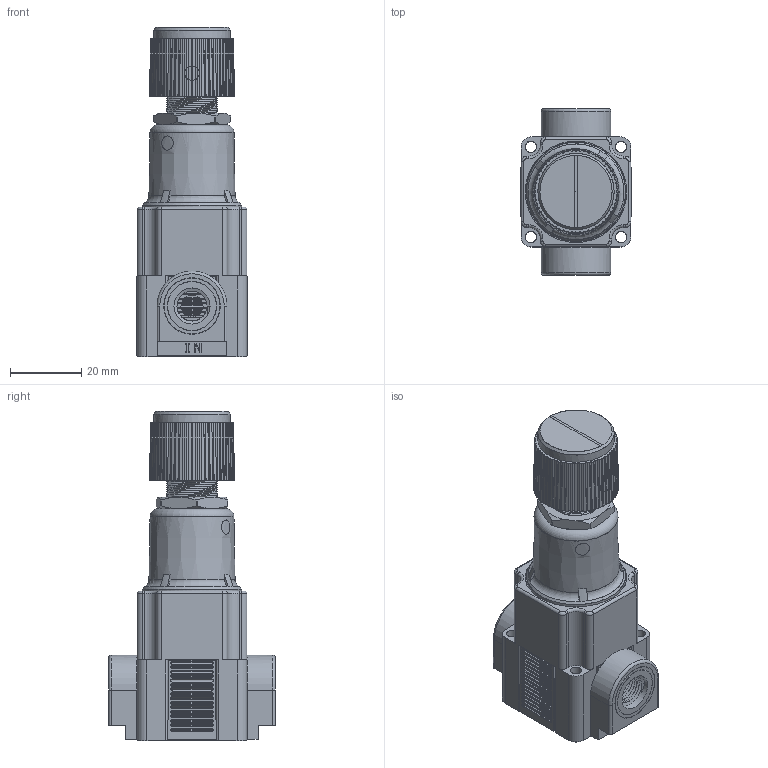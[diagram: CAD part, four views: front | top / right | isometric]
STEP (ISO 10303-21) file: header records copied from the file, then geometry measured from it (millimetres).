
FILE_DESCRIPTION(/* description */ (''),/* implementation_level */ '2;1');
FILE_NAME(/* name */ 'K:\Normteile INVENTOR\Air-Logic\Regulators\NR4000\NR40201B1BWK for Promo Box.ipt.stp',/* time_stamp */ '2020-05-27T10:52:01+02:00',/* author */ ('JHayden'),/* organization */ (''),/* preprocessor_version */ 'ST-DEVELOPER v18',/* originating_system */ 'Autodesk Inventor 2020',/* authorisation */ '');
FILE_SCHEMA (('AUTOMOTIVE_DESIGN { 1 0 10303 214 3 1 1 }'));
Products named in the file (1): NR40201B1BWK for Promo Box
Bounding box: 31.19 x 46.94 x 92.65 mm (x, y, z)
Volume: 114193.5 mm3; surface area: 39321.5 mm2
Topology: 2 solids, 2 shells, 1902 faces, 4914 edges, 3142 vertices
Faces by surface type: plane 948, cylinder 696, cone 164, bspline 50, torus 44
Full cylindrical faces by diameter (mm): 3.175 x8, 3.988 x2, 4.039 x2, 6.248 x2, 8.458 x14, 9.169 x2, 9.652 x2, 10.163 x14, 12.903 x2, 13.716 x2, 13.872 x2, 14.288 x6, 15.707 x2, 15.913 x2, 19.406 x2, 21.476 x2, 26.264 x2, 27.94 x2, 27.991 x2, 28.575 x2
Entity records: 80025 total; most frequent: CARTESIAN_POINT 30687, DIRECTION 10298, ORIENTED_EDGE 9828, EDGE_CURVE 4914, AXIS2_PLACEMENT_3D 3933, VERTEX_POINT 3142, LINE 2432, VECTOR 2432
